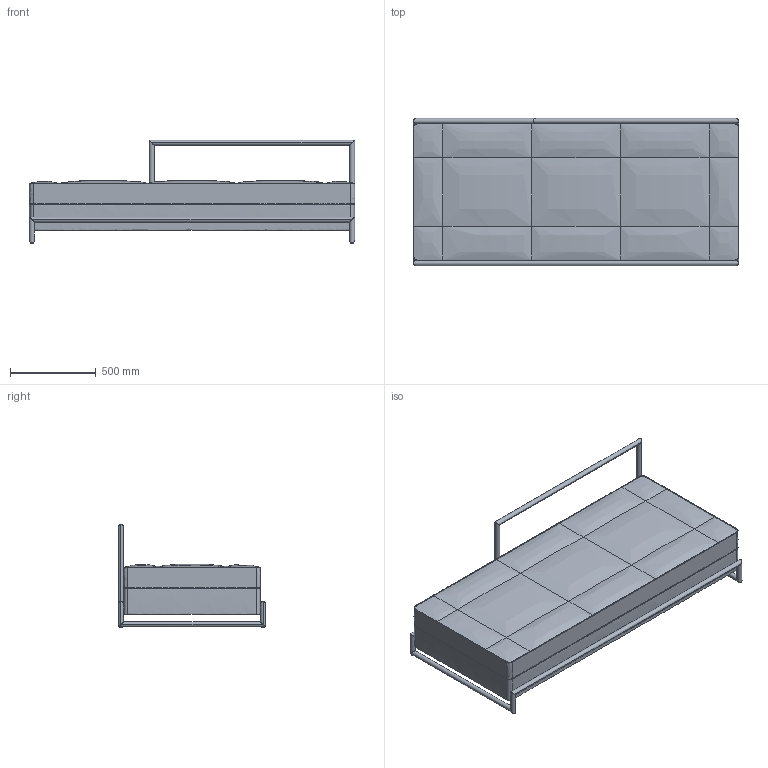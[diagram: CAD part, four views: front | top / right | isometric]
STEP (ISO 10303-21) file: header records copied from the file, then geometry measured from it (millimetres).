
FILE_DESCRIPTION(/* description */ (''),/* implementation_level */ '2;1');
FILE_NAME(/* name */ 'EG_DayBed_3DL_20230703',/* time_stamp */ '2023-07-04T08:50:37+02:00',/* author */ (''),/* organization */ (''),/* preprocessor_version */ 'ST-DEVELOPER v16.5',/* originating_system */ 'Rhino 7.29',/* authorisation */ '');
FILE_SCHEMA (('CONFIG_CONTROL_DESIGN'));
Length unit declared in the file: millimetre
Products named in the file (1): Document
Bounding box: 1904 x 860 x 605 mm (x, y, z)
Volume: 232451772.1 mm3; surface area: 9941240.4 mm2
Topology: 15 solids, 19 shells, 133 faces, 296 edges, 184 vertices
Faces by surface type: bspline 77, plane 28, cylinder 28
Entity records: 34559 total; most frequent: CARTESIAN_POINT 32634, ORIENTED_EDGE 540, EDGE_CURVE 296, VERTEX_POINT 184, B_SPLINE_CURVE_WITH_KNOTS 182, ADVANCED_FACE 133, FACE_OUTER_BOUND 133, EDGE_LOOP 133
